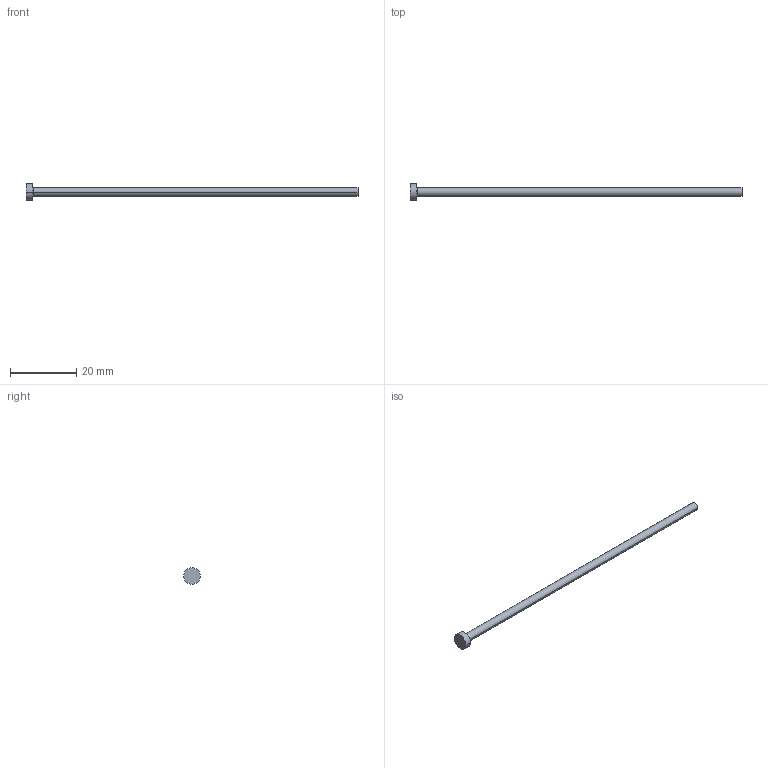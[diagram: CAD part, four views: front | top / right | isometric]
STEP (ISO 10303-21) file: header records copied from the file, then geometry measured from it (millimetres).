
FILE_DESCRIPTION (( 'STEP AP214' ), '1' );
FILE_NAME ('A-2,5x100.STEP', '2020-05-28T16:54:12', ( 'August' ), ( '' ), 'SwSTEP 2.0', 'SolidWorks 2018', '' );
FILE_SCHEMA (( 'AUTOMOTIVE_DESIGN' ));
Length unit declared in the file: millimetre
Products named in the file (1): A-2,5x100
Bounding box: 100 x 5 x 5 mm (x, y, z)
Volume: 520.5 mm3; surface area: 839.4 mm2
Topology: 1 solids, 1 shells, 9 faces, 16 edges, 10 vertices
Faces by surface type: cylinder 4, plane 3, torus 2
Entity records: 260 total; most frequent: DIRECTION 48, CARTESIAN_POINT 36, ORIENTED_EDGE 32, AXIS2_PLACEMENT_3D 22, EDGE_CURVE 16, CIRCLE 12, EDGE_LOOP 10, VERTEX_POINT 10
